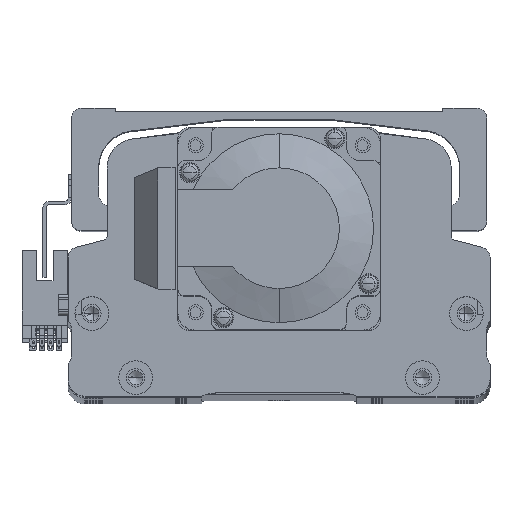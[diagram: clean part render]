
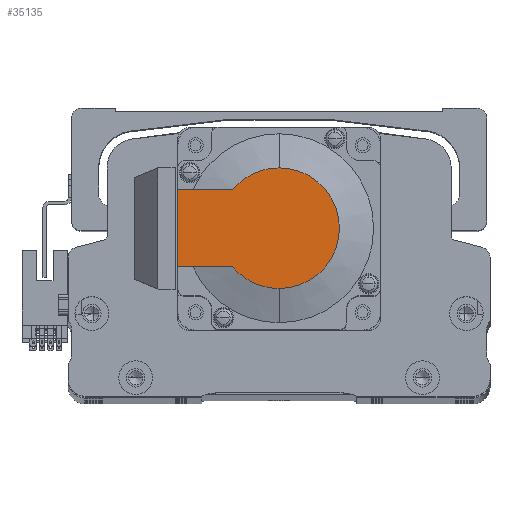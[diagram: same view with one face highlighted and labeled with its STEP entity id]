
A CAD part, top view. The second image highlights one B-rep face of the part: STEP entity #35135.
In plain terms, the highlighted planar face has unit normal (0, 0, 1) as drawn and (-1, 0, 0) by its records, which use the part's own axes.
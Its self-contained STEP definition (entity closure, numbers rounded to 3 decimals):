
#447 = DIRECTION ( 'NONE',  ( 0., -1., 0. ) ) ;
#1315 = ORIENTED_EDGE ( 'NONE', *, *, #36009, .T. ) ;
#3000 = AXIS2_PLACEMENT_3D ( 'NONE', #4023, #35245, #8468 ) ;
#3385 = EDGE_CURVE ( 'NONE', #32592, #49557, #26791, .T. ) ;
#4023 = CARTESIAN_POINT ( 'NONE',  ( -118.5, 0., 0. ) ) ;
#4746 = CARTESIAN_POINT ( 'NONE',  ( -118.5, -8.941, -11.45 ) ) ;
#5321 = ORIENTED_EDGE ( 'NONE', *, *, #42521, .F. ) ;
#7588 = DIRECTION ( 'NONE',  ( 0., 0., 1. ) ) ;
#8468 = DIRECTION ( 'NONE',  ( 0., 0., -1. ) ) ;
#9735 = ORIENTED_EDGE ( 'NONE', *, *, #24548, .T. ) ;
#10502 = CARTESIAN_POINT ( 'NONE',  ( -118.5, 0., 0. ) ) ;
#13044 = DIRECTION ( 'NONE',  ( -1., 0., 0. ) ) ;
#13964 = AXIS2_PLACEMENT_3D ( 'NONE', #48190, #21394, #52659 ) ;
#14881 = VECTOR ( 'NONE', #447, 1000. ) ;
#15008 = DIRECTION ( 'NONE',  ( 0., 0., -1. ) ) ;
#15175 = CIRCLE ( 'NONE', #48462, 17.881 ) ;
#15402 = CARTESIAN_POINT ( 'NONE',  ( -118.5, 0., 17.881 ) ) ;
#15957 = FACE_OUTER_BOUND ( 'NONE', #55476, .T. ) ;
#16764 = ORIENTED_EDGE ( 'NONE', *, *, #19807, .T. ) ;
#18666 = CARTESIAN_POINT ( 'NONE',  ( -118.5, 30., -11.45 ) ) ;
#19807 = EDGE_CURVE ( 'NONE', #49557, #26221, #31283, .T. ) ;
#21394 = DIRECTION ( 'NONE',  ( -1., 0., 0. ) ) ;
#23658 = EDGE_CURVE ( 'NONE', #43754, #45880, #44155, .T. ) ;
#24548 = EDGE_CURVE ( 'NONE', #26221, #42360, #55846, .T. ) ;
#26221 = VERTEX_POINT ( 'NONE', #45379 ) ;
#26791 = LINE ( 'NONE', #4746, #14881 ) ;
#27937 = CARTESIAN_POINT ( 'NONE',  ( -118.5, 30., 11.45 ) ) ;
#30469 = LINE ( 'NONE', #56813, #49343 ) ;
#31283 = CIRCLE ( 'NONE', #41627, 17.881 ) ;
#32592 = VERTEX_POINT ( 'NONE', #18666 ) ;
#33256 = CARTESIAN_POINT ( 'NONE',  ( -118.5, 13.735, -11.45 ) ) ;
#35135 = ADVANCED_FACE ( 'NONE', ( #15957 ), #52485, .T. ) ;
#35245 = DIRECTION ( 'NONE',  ( -1., 0., 0. ) ) ;
#35408 = ORIENTED_EDGE ( 'NONE', *, *, #23658, .F. ) ;
#36009 = EDGE_CURVE ( 'NONE', #42360, #45880, #15175, .T. ) ;
#39840 = CARTESIAN_POINT ( 'NONE',  ( -118.5, 0., 0. ) ) ;
#41627 = AXIS2_PLACEMENT_3D ( 'NONE', #39840, #13044, #44351 ) ;
#41783 = DIRECTION ( 'NONE',  ( -1., 0., 0. ) ) ;
#41993 = DIRECTION ( 'NONE',  ( 0., -1., 0. ) ) ;
#42360 = VERTEX_POINT ( 'NONE', #15402 ) ;
#42521 = EDGE_CURVE ( 'NONE', #32592, #43754, #30469, .T. ) ;
#43754 = VERTEX_POINT ( 'NONE', #27937 ) ;
#44155 = LINE ( 'NONE', #51009, #51823 ) ;
#44351 = DIRECTION ( 'NONE',  ( 0., 0., -1. ) ) ;
#45379 = CARTESIAN_POINT ( 'NONE',  ( -118.5, 0., -17.881 ) ) ;
#45880 = VERTEX_POINT ( 'NONE', #57101 ) ;
#46641 = ORIENTED_EDGE ( 'NONE', *, *, #3385, .T. ) ;
#48190 = CARTESIAN_POINT ( 'NONE',  ( -118.5, -8.941, 0. ) ) ;
#48462 = AXIS2_PLACEMENT_3D ( 'NONE', #10502, #41783, #15008 ) ;
#49343 = VECTOR ( 'NONE', #7588, 1000. ) ;
#49557 = VERTEX_POINT ( 'NONE', #33256 ) ;
#51009 = CARTESIAN_POINT ( 'NONE',  ( -118.5, 0., 11.45 ) ) ;
#51823 = VECTOR ( 'NONE', #41993, 1000. ) ;
#52485 = PLANE ( 'NONE',  #13964 ) ;
#52659 = DIRECTION ( 'NONE',  ( 0., 0., 1. ) ) ;
#55476 = EDGE_LOOP ( 'NONE', ( #46641, #16764, #9735, #1315, #35408, #5321 ) ) ;
#55846 = CIRCLE ( 'NONE', #3000, 17.881 ) ;
#56813 = CARTESIAN_POINT ( 'NONE',  ( -118.5, 30., 25. ) ) ;
#57101 = CARTESIAN_POINT ( 'NONE',  ( -118.5, 13.735, 11.45 ) ) ;
